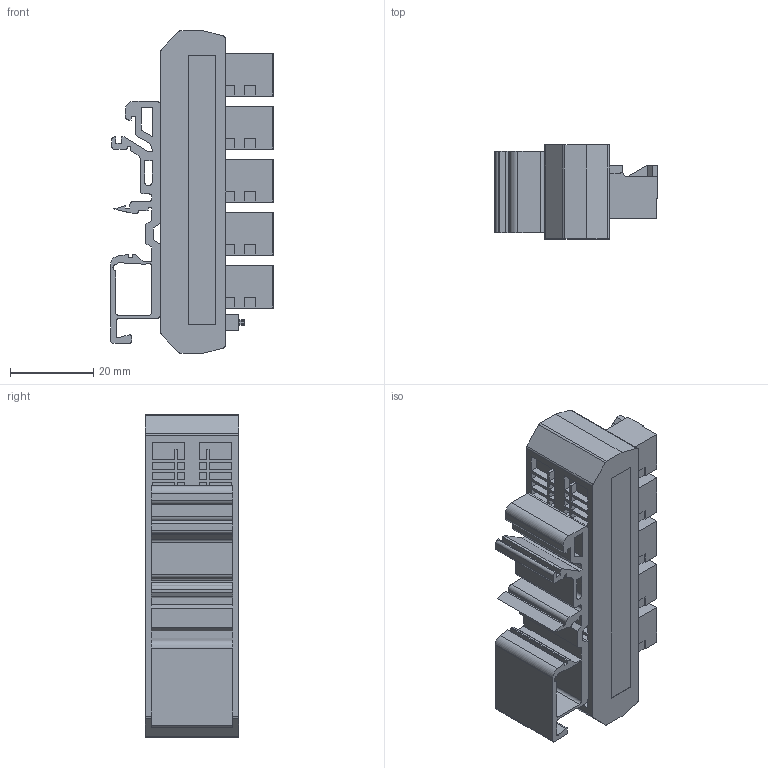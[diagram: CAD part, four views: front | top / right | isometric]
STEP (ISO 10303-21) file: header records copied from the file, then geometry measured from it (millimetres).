
FILE_DESCRIPTION(('STEP AP214'), '1');
FILE_NAME('RS-SPLIT-5S ïåðåäåëàííûé ó â ñòåïêóó', '', ('UNSPECIFIED'), ('UNSPECIFIED'), 'C3D Converter', 'C3D Toolkit', '');
FILE_SCHEMA(('AUTOMOTIVE_DESIGN { 1 0 10303 214 3 1 1}'));
Length unit declared in the file: millimetre
Bounding box: 38.9 x 22.5 x 77.4 mm (x, y, z)
Volume: 32962.2 mm3; surface area: 22680.4 mm2
Topology: 1 solids, 69 shells, 2176 faces, 5710 edges, 3749 vertices
Faces by surface type: plane 1987, cylinder 177, sphere 8, torus 4
Entity records: 83351 total; most frequent: CARTESIAN_POINT 11797, ORIENTED_EDGE 11404, DIRECTION 10414, EDGE_CURVE 5702, LINE 5316, VECTOR 5316, VERTEX_POINT 3749, AXIS2_PLACEMENT_3D 2549
